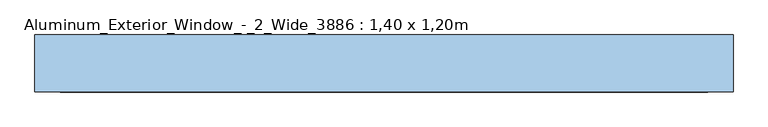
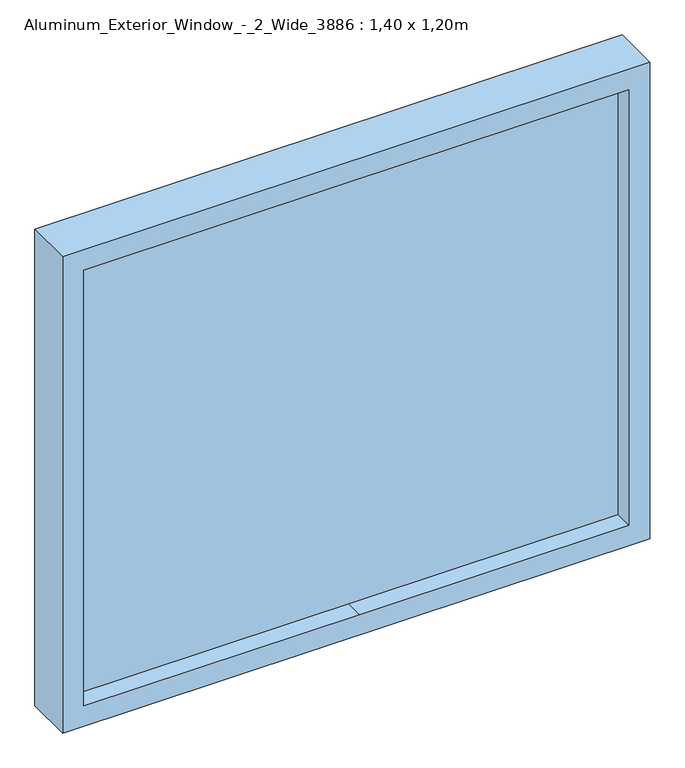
"""IFC4 building model written with IfcOpenShell, lengths in millimetres: window geometry, Aluminum_Exterior_Window_-_2_Wide_3886 : 1,40 x 1,20m."""

from ifc_helpers import new_model, si_unit, frame, origin, place, context, project, spatial, polyline, outline, extrude, source, transform, mapped, element, save


def aluminum_exterior_window_2_wide_3886_1_40_x_1_20m_806e9f65(model_context):
    return source(origin(), model_context, "Body", "SweptSolid", [
        extrude(outline(polyline([(2260.0, -1371.6), (1060.0, -1371.6), (1060.0, 28.4), (2260.0, 28.4), (2260.0, -1371.6)]), holes=[polyline([(2209.2, -697.0), (2209.2, -22.4), (1110.8, -22.4), (1110.8, -663.8808837), (1110.8, -1320.8), (2209.2, -1320.8), (2209.2, -697.0)])]), frame((0.0, -76.1575246, 0.0), z_axis=(0.0, 1.0, 0.0), x_axis=(0.0, 0.0, 1.0)), (0.0, 0.0, 1.0), 114.3),
        extrude(outline(polyline([(2209.2, -697.0), (2209.2, -1320.8), (1110.8, -1320.8), (1110.8, -670.891469), (1110.8, -22.4), (2209.2, -22.4), (2209.2, -697.0)])), frame((0.0, -31.7075246, 0.0), z_axis=(0.0, 1.0, 0.0), x_axis=(0.0, 0.0, 1.0)), (0.0, 0.0, 1.0), 25.4),
    ])


if __name__ == "__main__":
    model = new_model("IFC4")
    model_context = context("Model", 3, world=origin())
    ifc_project = project(units=[si_unit("LENGTHUNIT", "METRE", prefix="MILLI")], contexts=[model_context])
    site = spatial("IfcSite", under=ifc_project)
    building = spatial("IfcBuilding", under=site)
    placement = place(None, origin())
    aluminum_exterior_window_2_wide_3886_1_40_x_1_20m_shape = aluminum_exterior_window_2_wide_3886_1_40_x_1_20m_806e9f65(model_context)
    element("IfcWindow", 1, ObjectType="Aluminum_Exterior_Window_-_2_Wide_3886 : 1,40 x 1,20m", at=placement, inside=building, context=model_context, shape_type="MappedRepresentation", body=[
        mapped(aluminum_exterior_window_2_wide_3886_1_40_x_1_20m_shape, transform((0.0, 0.0, 0.0), x_axis=(1.0, 0.0, 0.0), y_axis=(0.0, 1.0, 0.0), z_axis=(0.0, 0.0, 1.0))),
    ])
    save(model, "model.ifc")
